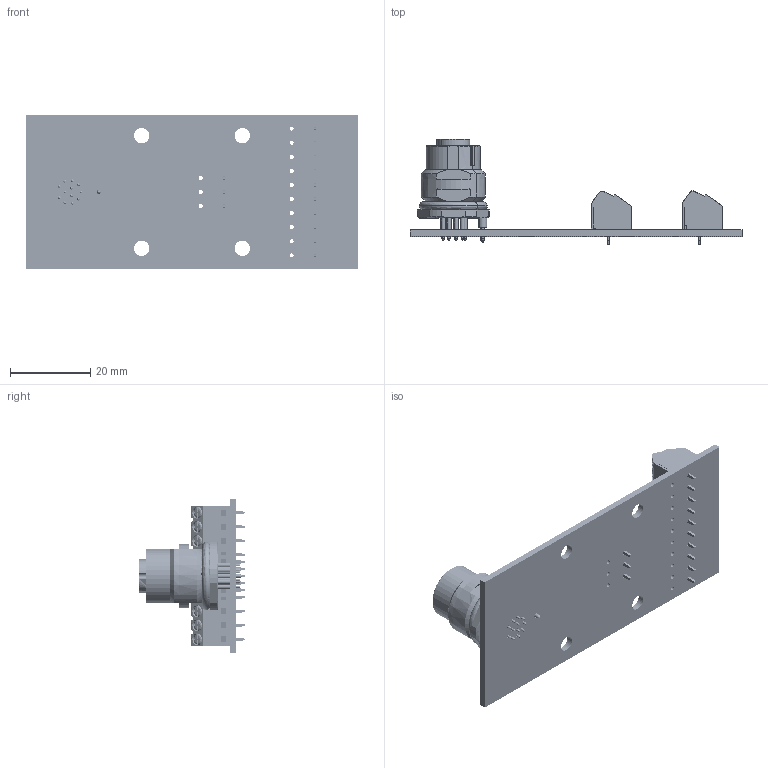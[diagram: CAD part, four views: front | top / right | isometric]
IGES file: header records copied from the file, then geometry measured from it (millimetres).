
Start section: SolidWorks IGES file using analytic representation for surfaces
Global section: file name: W:\end-user\products\brk\brkm12\brkm12a-12fs\3dmodel\rev_b\render\brkm12a-12fs-n_rev_b.igs; native system: SolidWorks 2018; preprocessor: SolidWorks 2018; author: leviroy; date: 230619.103717; units: inch
Bounding box: 82.55 x 26.15 x 38.1 mm (x, y, z)
Surface area: 13174.1 mm2 (no closed solid volume)
Topology: 0 solids, 0 shells, 3029 faces, 26384 edges, 26379 vertices
Faces by surface type: bspline 2532, revolution 497
